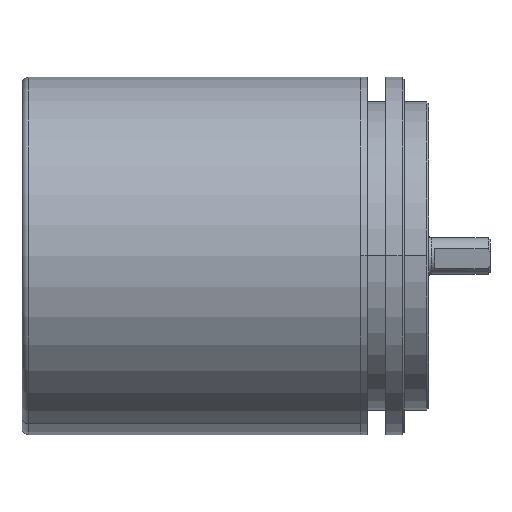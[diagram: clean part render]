
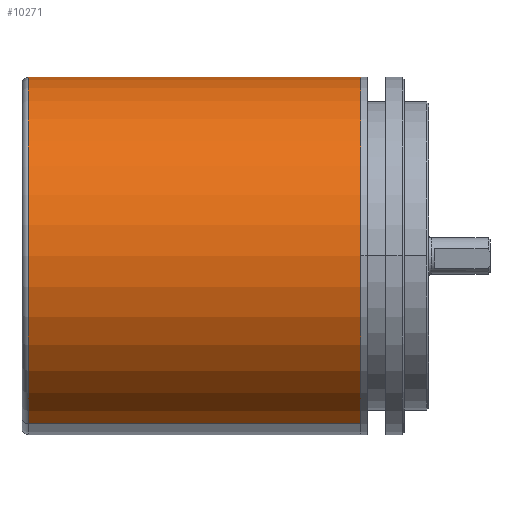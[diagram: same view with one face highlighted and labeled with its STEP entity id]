
A CAD part, top view. The second image highlights one B-rep face of the part: STEP entity #10271.
In plain terms, the highlighted cylindrical face has radius 29 mm (diameter 58 mm), a partial arc.
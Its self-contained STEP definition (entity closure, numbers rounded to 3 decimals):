
#5423 = CYLINDRICAL_SURFACE ( 'NONE', #5425, 29. ) ;
#5424 = CARTESIAN_POINT ( 'NONE',  ( 15., 0., 0. ) ) ;
#5425 = AXIS2_PLACEMENT_3D ( 'NONE', #5424, #5462, #5506 ) ;
#5462 = DIRECTION ( 'NONE',  ( -1., 0., 0. ) ) ;
#5506 = DIRECTION ( 'NONE',  ( 0., 0.94, -0.342 ) ) ;
#5853 = FACE_OUTER_BOUND ( 'NONE', #10272, .T. ) ;
#6882 = DIRECTION ( 'NONE',  ( 0., -0.94, 0.342 ) ) ;
#6883 = DIRECTION ( 'NONE',  ( 1., 0., 0. ) ) ;
#6884 = AXIS2_PLACEMENT_3D ( 'NONE', #6891, #6883, #6882 ) ;
#6885 = CIRCLE ( 'NONE', #6884, 29. ) ;
#6891 = CARTESIAN_POINT ( 'NONE',  ( -39., 0., 0. ) ) ;
#7128 = EDGE_CURVE ( 'NONE', #7150, #7149, #10717, .T. ) ;
#7149 = VERTEX_POINT ( 'NONE', #10727 ) ;
#7150 = VERTEX_POINT ( 'NONE', #10726 ) ;
#7152 = EDGE_CURVE ( 'NONE', #7149, #7153, #10725, .T. ) ;
#7153 = VERTEX_POINT ( 'NONE', #10721 ) ;
#7156 = VERTEX_POINT ( 'NONE', #10764 ) ;
#7158 = EDGE_CURVE ( 'NONE', #7150, #7156, #10763, .T. ) ;
#10248 = ORIENTED_EDGE ( 'NONE', *, *, #7152, .F. ) ;
#10249 = ORIENTED_EDGE ( 'NONE', *, *, #7128, .F. ) ;
#10264 = ORIENTED_EDGE ( 'NONE', *, *, #10386, .T. ) ;
#10268 = ORIENTED_EDGE ( 'NONE', *, *, #7158, .T. ) ;
#10271 = ADVANCED_FACE ( 'NONE', ( #5853 ), #5423, .T. ) ;
#10272 = EDGE_LOOP ( 'NONE', ( #10248, #10249, #10268, #10264 ) ) ;
#10386 = EDGE_CURVE ( 'NONE', #7156, #7153, #6885, .T. ) ;
#10712 = DIRECTION ( 'NONE',  ( 0., -0.94, 0.342 ) ) ;
#10714 = DIRECTION ( 'NONE',  ( 1., 0., 0. ) ) ;
#10715 = CARTESIAN_POINT ( 'NONE',  ( 15., 0., 0. ) ) ;
#10716 = AXIS2_PLACEMENT_3D ( 'NONE', #10715, #10714, #10712 ) ;
#10717 = CIRCLE ( 'NONE', #10716, 29. ) ;
#10721 = CARTESIAN_POINT ( 'NONE',  ( -39., -27.251, 9.919 ) ) ;
#10722 = DIRECTION ( 'NONE',  ( -1., 0., 0. ) ) ;
#10723 = VECTOR ( 'NONE', #10722, 1000. ) ;
#10724 = CARTESIAN_POINT ( 'NONE',  ( 15., -27.251, 9.919 ) ) ;
#10725 = LINE ( 'NONE', #10724, #10723 ) ;
#10726 = CARTESIAN_POINT ( 'NONE',  ( 15., 27.251, -9.919 ) ) ;
#10727 = CARTESIAN_POINT ( 'NONE',  ( 15., -27.251, 9.919 ) ) ;
#10760 = DIRECTION ( 'NONE',  ( -1., 0., 0. ) ) ;
#10761 = VECTOR ( 'NONE', #10760, 1000. ) ;
#10762 = CARTESIAN_POINT ( 'NONE',  ( 15., 27.251, -9.919 ) ) ;
#10763 = LINE ( 'NONE', #10762, #10761 ) ;
#10764 = CARTESIAN_POINT ( 'NONE',  ( -39., 27.251, -9.919 ) ) ;
